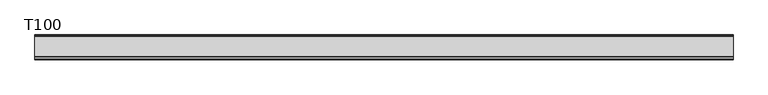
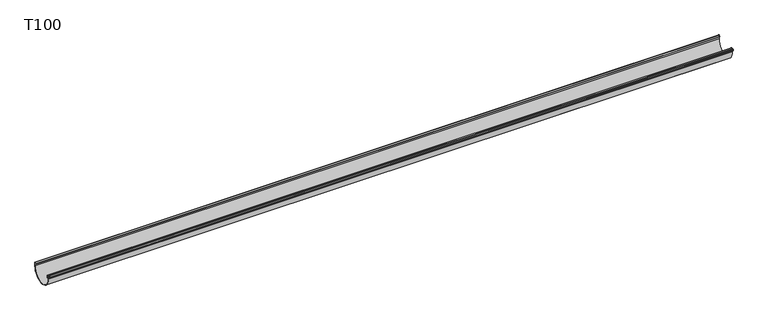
"""IFC4 building model written with IfcOpenShell, lengths in millimetres: proxy geometry, GROVIK_Gutter_Straight : T100."""

from ifc_helpers import new_model, si_unit, point, frame, frame_2d, origin, place, context, project, spatial, polyline, circle_curve, trimmed, segment, composite_curve, outline, extrude, source, transform, mapped, element, save


def t100_36081ea8(model_context):
    return source(origin(), model_context, "Body", "SweptSolid", [
        extrude(outline(composite_curve([segment(polyline([(95.6785725, 12.9222473), (94.8220658, 3.1323305), (104.7816977, 1.3761787), (105.2998033, 7.2981526), (98.3413035, 6.0711814), (98.1850202, 6.9575084), (105.0151773, 8.1618494)]), True, "CONTINUOUS"), segment(trimmed(circle_curve(frame_2d((105.1888255, 7.1770416)), 1.0), [point((105.0151773, 8.1618494))], [point((106.1850202, 7.0898858))], False, "CARTESIAN"), True, "CONTINUOUS"), segment(polyline([(106.1850202, 7.0898858), (105.6885136, 1.4147891)]), True, "CONTINUOUS"), segment(trimmed(circle_curve(frame_2d((104.6923189, 1.5019449)), 1.0), [point((105.6885136, 1.4147891))], [point((104.6051631, 0.5057503))], False, "CARTESIAN"), True, "CONTINUOUS"), segment(polyline([(104.6051631, 0.5057503), (94.7570856, 2.242232)]), True, "CONTINUOUS"), segment(trimmed(circle_curve(frame_2d((94.9307338, 3.2270398)), 1.0), [point((94.7570856, 2.242232))], [point((93.9345391, 3.3141955))], False, "CARTESIAN"), True, "CONTINUOUS"), segment(polyline([(93.9345391, 3.3141955), (94.7746841, 12.9170968)]), True, "CONTINUOUS"), segment(trimmed(circle_curve(frame_2d((95.683723, 12.9170968)), 0.909039), [point((94.7746841, 12.9170968))], [point((95.683723, 13.8261358))], False, "CARTESIAN"), True, "CONTINUOUS"), segment(polyline([(95.683723, 13.8261358), (100.9, 14.2825008), (100.9, 16.3578028)]), True, "CONTINUOUS"), segment(trimmed(circle_curve(frame_2d((50.9, 16.3578028)), 50.0), [point((100.9, 16.3578028))], [point((0.9, 16.3578028))], True, "CARTESIAN"), True, "CONTINUOUS"), segment(polyline([(0.9, 16.3578028), (0.9, 1.3578028), (5.6494755, 5.3430859), (6.2279844, 4.6536459), (0.8213938, 0.1169778)]), True, "CONTINUOUS"), segment(trimmed(circle_curve(frame_2d((0.5, 0.5)), 0.5), [point((0.8213938, 0.1169778))], [point((0.0, 0.5))], False, "CARTESIAN"), True, "CONTINUOUS"), segment(polyline([(0.0, 0.5), (0.0, 16.3578028)]), True, "CONTINUOUS"), segment(trimmed(circle_curve(frame_2d((50.9, 16.3578028)), 50.9), [point((0.0, 16.3578028))], [point((101.8, 16.3578028))], False, "CARTESIAN"), True, "CONTINUOUS"), segment(polyline([(101.8, 16.3578028), (101.8, 14.3741339)]), True, "CONTINUOUS"), segment(trimmed(circle_curve(frame_2d((100.8, 14.3741339)), 1.0), [point((101.8, 14.3741339))], [point((100.8871557, 13.3779392))], False, "CARTESIAN"), True, "CONTINUOUS"), segment(polyline([(100.8871557, 13.3779392), (95.6785725, 12.9222473)]), True, "CONTINUOUS")], self_intersect=False)), frame((300.0, 0.0, 0.0), z_axis=(0.9999994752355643, 0.0, 0.0010244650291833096), x_axis=(0.0, -1.0, 0.0)), (0.0, 0.0, 1.0), 2990.1480659),
    ])


if __name__ == "__main__":
    model = new_model("IFC4")
    model_context = context("Model", 3, world=origin())
    ifc_project = project(units=[si_unit("LENGTHUNIT", "METRE", prefix="MILLI")], contexts=[model_context])
    site = spatial("IfcSite", under=ifc_project)
    building = spatial("IfcBuilding", under=site)
    placement = place(None, origin())
    t100_shape = t100_36081ea8(model_context)
    element("IfcBuildingElementProxy", 1, Name="GROVIK_Gutter_Straight : T100", ObjectType="GROVIK_Gutter_Straight : T100", at=placement, inside=building, context=model_context, shape_type="MappedRepresentation", body=[
        mapped(t100_shape, transform((0.0, 0.0, 0.0), x_axis=(1.0, 0.0, 0.0), y_axis=(0.0, 1.0, 0.0), z_axis=(0.0, 0.0, 1.0))),
    ])
    save(model, "model.ifc")
